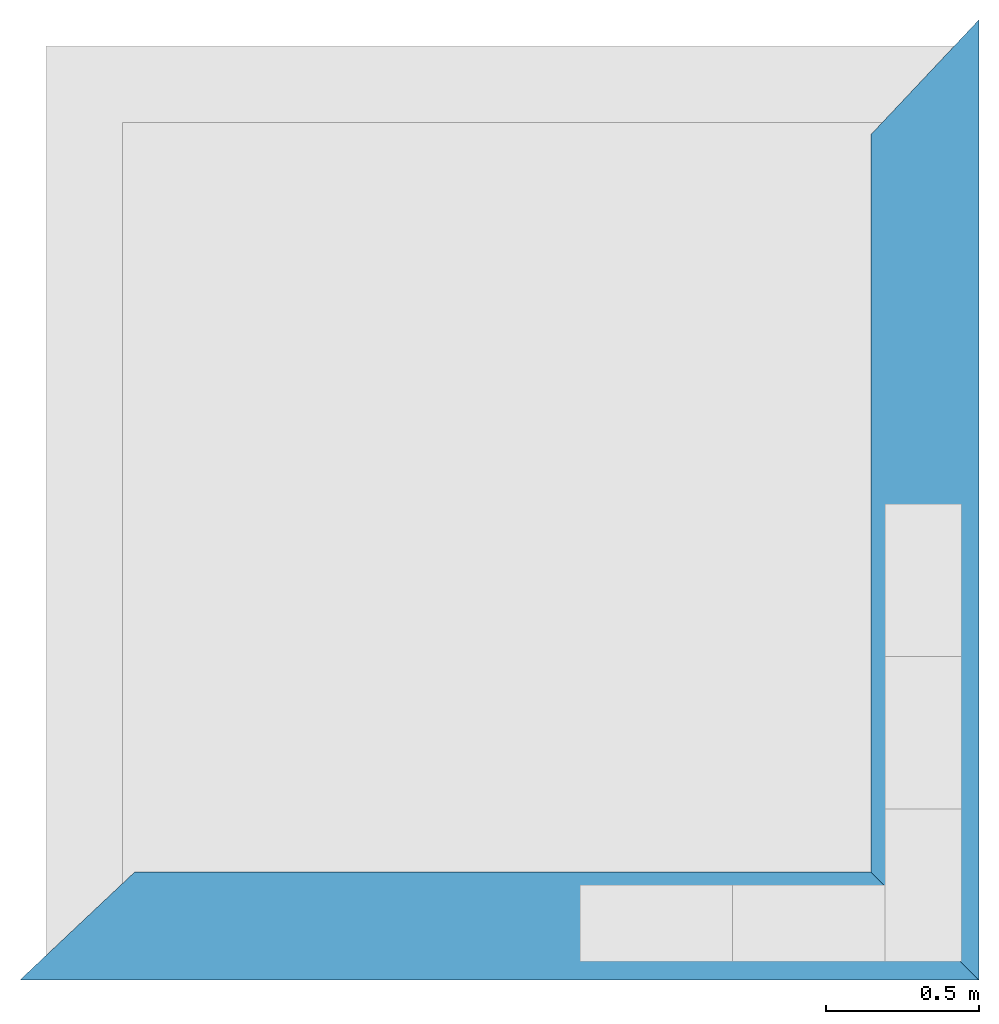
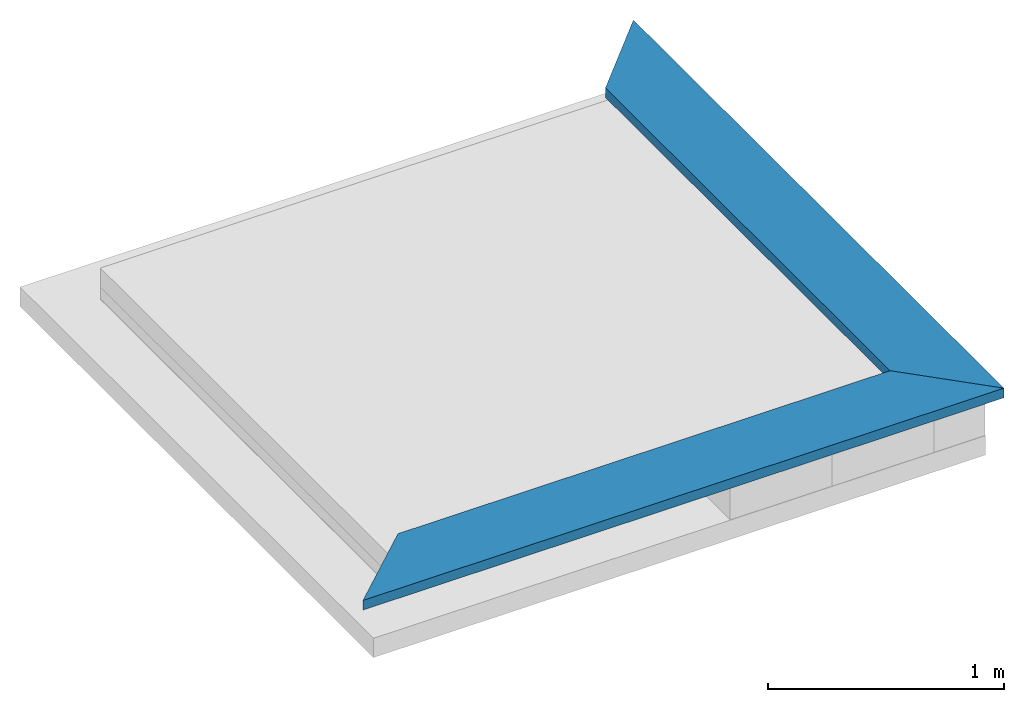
# One storey, part 3 of 3: 2 beams.
"""IFC4 building model written with IfcOpenShell, lengths in centimetres."""

import ifcopenshell
import ifcopenshell.guid

model = None  # the IFC model being written
_history = None  # IfcOwnerHistory: only IFC2X3 demands one
_inside = {}  # id of a spatial element -> (the spatial element, [elements in it])
_under = {}  # id of a project, library or spatial element -> (it, [spatial elements below it])
_declared = {}  # id of a project -> (the project, [libraries it declares])
_typed = {}  # id of a type object -> (the type object, [elements of that type])
_made_of = {}  # id of a material, layer set ... -> (it, [elements and type objects made of it])


def new_model(schema):
    """Start an empty IFC model of exactly this schema.

    Asked for "IFC4X3", IfcOpenShell would pick the latest addendum, in which some entities
    have other attributes; the version numbers below select the first issue.
    IFC2X3 requires an IfcOwnerHistory on every rooted entity: one is made here for all.
    """
    global model, _history
    if schema == "IFC4X3":
        model = ifcopenshell.file(schema_version=(4, 3, 0, 0))
    else:
        model = ifcopenshell.file(schema=schema)
    _inside.clear()
    _under.clear()
    _declared.clear()
    _typed.clear()
    _made_of.clear()
    _history = None
    if model.schema == "IFC2X3":
        org = make("IfcOrganization", Name="unknown")
        user = make(
            "IfcPersonAndOrganization",
            ThePerson=make("IfcPerson", FamilyName="unknown"),
            TheOrganization=org,
        )
        app = make(
            "IfcApplication",
            ApplicationDeveloper=org,
            Version="unknown",
            ApplicationFullName="unknown",
            ApplicationIdentifier="unknown",
        )
        _history = make(
            "IfcOwnerHistory",
            OwningUser=user,
            OwningApplication=app,
            ChangeAction="ADDED",
            CreationDate=0,
        )
    return model


def make(cls, **values):
    """One entity of the class cls with the attributes given. An attribute that is None is left unset."""
    return model.create_entity(
        cls, **{name: value for name, value in values.items() if value is not None}
    )


def entity(cls, *values):
    """Any entity or typed value of the class cls, its attributes in the order of the schema. None: left unset."""
    e = model.create_entity(cls)
    for i, value in enumerate(values):
        if value is not None:
            e[i] = value
    return e


def rooted(cls, **values):
    """An entity with a GlobalId (a new one), such as an element, a storey or a relation."""
    return make(cls, GlobalId=ifcopenshell.guid.new(), OwnerHistory=_history, **values)


def si_unit(unit_type, name, prefix=None):
    """IfcSIUnit, for example si_unit("LENGTHUNIT", "METRE", prefix="MILLI")."""
    return make("IfcSIUnit", UnitType=unit_type, Prefix=prefix, Name=name)


def converted_unit(unit_type, name, factor, base, dimensions=None, offset=None):
    """IfcConversionBasedUnit, such as the inch: factor (a typed value) times the base unit."""
    return make(
        "IfcConversionBasedUnit"
        if offset is None
        else "IfcConversionBasedUnitWithOffset",
        ConversionOffset=offset,
        Dimensions=None
        if dimensions is None
        else entity("IfcDimensionalExponents", *dimensions),
        UnitType=unit_type,
        Name=name,
        ConversionFactor=make(
            "IfcMeasureWithUnit", ValueComponent=factor, UnitComponent=base
        ),
    )


def assignment(units):
    """IfcUnitAssignment: the units of a project."""
    return None if units is None else make("IfcUnitAssignment", Units=units)


def point(xyz):
    """IfcCartesianPoint."""
    return None if xyz is None else make("IfcCartesianPoint", Coordinates=xyz)


def direction(xyz):
    """IfcDirection."""
    return None if xyz is None else make("IfcDirection", DirectionRatios=xyz)


def frame(location, z_axis=None, x_axis=None):
    """IfcAxis2Placement3D, a coordinate frame: its origin and axes. An axis left out is left unset."""
    return make(
        "IfcAxis2Placement3D",
        Location=point(location),
        Axis=direction(z_axis),
        RefDirection=direction(x_axis),
    )


def origin():
    """The frame at (0, 0, 0) with its axes left unset."""
    return frame((0.0, 0.0, 0.0))


def place(relative_to, where):
    """IfcLocalPlacement: puts the frame where relative to a parent placement (None: the world)."""
    return make(
        "IfcLocalPlacement", PlacementRelTo=relative_to, RelativePlacement=where
    )


def context(
    kind, dimensions, precision=None, world=None, true_north=None, identifier=None
):
    """IfcGeometricRepresentationContext, for example the 3D "Model" context."""
    return make(
        "IfcGeometricRepresentationContext",
        ContextIdentifier=identifier,
        ContextType=kind,
        CoordinateSpaceDimension=dimensions,
        Precision=precision,
        WorldCoordinateSystem=world,
        TrueNorth=true_north,
    )


def subcontext(parent, identifier, kind, view, scale=None):
    """IfcGeometricRepresentationSubContext, for example "Body" below "Model"."""
    return make(
        "IfcGeometricRepresentationSubContext",
        ContextIdentifier=identifier,
        ContextType=kind,
        ParentContext=parent,
        TargetScale=scale,
        TargetView=view,
    )


def project(units=None, contexts=None):
    """IfcProject with its units and contexts."""
    return rooted(
        "IfcProject",
        Name="project",
        RepresentationContexts=contexts,
        UnitsInContext=assignment(units),
    )


def spatial(cls, under=None, at=None, **own):
    """A site, building, storey or space (cls), placed at a placement, below another one or the project."""
    s = rooted(cls, ObjectPlacement=at, **own)
    if under is not None:
        _under.setdefault(under.id(), (under, []))[1].append(s)
    return s


def point_list(points):
    """IfcCartesianPointList2D or 3D."""
    cls = (
        "IfcCartesianPointList2D" if len(points[0]) == 2 else "IfcCartesianPointList3D"
    )
    return make(cls, CoordList=points)


def polygons(points, faces, closed=None, point_numbers=None):
    """IfcPolygonalFaceSet: a face is its outer loop, then its inner loops; points numbered from 1."""
    made = []
    for loops in faces:
        if len(loops) == 1:
            made.append(make("IfcIndexedPolygonalFace", CoordIndex=loops[0]))
        else:
            made.append(
                make(
                    "IfcIndexedPolygonalFaceWithVoids",
                    CoordIndex=loops[0],
                    InnerCoordIndices=loops[1:],
                )
            )
    return make(
        "IfcPolygonalFaceSet",
        Coordinates=point_list(points),
        Closed=closed,
        Faces=made,
        PnIndex=point_numbers,
    )


def shape(context_of_items, identifier, shape_type, items):
    """IfcShapeRepresentation: the items that make up one representation, for example the "Body"."""
    return make(
        "IfcShapeRepresentation",
        ContextOfItems=context_of_items,
        RepresentationIdentifier=identifier,
        RepresentationType=shape_type,
        Items=items,
    )


def source(mapping_origin, context_of_items, identifier, shape_type, items):
    """IfcRepresentationMap: a shape defined once, which mapped items show again and again."""
    return make(
        "IfcRepresentationMap",
        MappingOrigin=mapping_origin,
        MappedRepresentation=shape(context_of_items, identifier, shape_type, items),
    )


def transform(
    local_origin,
    x_axis=None,
    y_axis=None,
    z_axis=None,
    scale=None,
    scale2=None,
    scale3=None,
    uniform=True,
):
    """IfcCartesianTransformationOperator3D, or its non-uniform kind. x_axis, y_axis, z_axis: its Axis1, 2, 3."""
    if uniform:
        return make(
            "IfcCartesianTransformationOperator3D",
            Axis1=direction(x_axis),
            Axis2=direction(y_axis),
            LocalOrigin=point(local_origin),
            Scale=scale,
            Axis3=direction(z_axis),
        )
    return make(
        "IfcCartesianTransformationOperator3DnonUniform",
        Axis1=direction(x_axis),
        Axis2=direction(y_axis),
        LocalOrigin=point(local_origin),
        Scale=scale,
        Axis3=direction(z_axis),
        Scale2=scale2,
        Scale3=scale3,
    )


def mapped(mapping_source, mapping_target):
    """IfcMappedItem: shows the shape of a source again, moved by a transform."""
    return make(
        "IfcMappedItem", MappingSource=mapping_source, MappingTarget=mapping_target
    )


def material(Name=None, Category=None):
    """IfcMaterial."""
    return make("IfcMaterial", Name=Name, Category=Category)


def made_of(thing, what):
    """Note that an element or type object is made of a material, layer set ...; save() writes the relation."""
    if what is not None:
        _made_of.setdefault(what.id(), (what, []))[1].append(thing)
    return thing


def type_object(cls, material=None, **own):
    """A type object (cls), such as IfcWallType, which elements share."""
    return made_of(rooted(cls, **own), material)


def type_shapes(of_type, sources):
    """Give a type object the sources (RepresentationMaps) that its elements show as mapped items."""
    of_type.RepresentationMaps = sources


def element(
    cls,
    number,
    at=None,
    inside=None,
    cuts=None,
    type_object=None,
    material=None,
    context=None,
    identifier="Body",
    shape_type=None,
    held_by="IfcProductDefinitionShape",
    body=None,
    shapes=None,
    **own,
):
    """One element of the class cls, such as IfcWall. Its Tag is "e" and its number.

    at: its placement. inside: the storey or other place that contains it. cuts: it is an
    opening in that element (IfcRelVoidsElement). A single representation is given by context,
    identifier, shape_type and body (its items); several are given by shapes. held_by: the class
    of the entity that holds the representations. save() writes the other relations.
    """
    e = rooted(cls, Tag="e%d" % number, ObjectPlacement=at, **own)
    if body is not None:
        shapes = [shape(context, identifier, shape_type, body)]
    if shapes is not None:
        e.Representation = make(held_by, Representations=shapes)
    if inside is not None:
        _inside.setdefault(inside.id(), (inside, []))[1].append(e)
    if cuts is not None:
        rooted(
            "IfcRelVoidsElement", RelatingBuildingElement=cuts, RelatedOpeningElement=e
        )
    if type_object is not None:
        _typed.setdefault(type_object.id(), (type_object, []))[1].append(e)
    return made_of(e, material)


def aggregate(whole, parts):
    """IfcRelAggregates: a whole, such as a stair, and the parts it consists of."""
    return rooted("IfcRelAggregates", RelatingObject=whole, RelatedObjects=parts)


def save(model, path):
    """Write the relations noted so far, then the file.

    IfcRelAggregates (storeys below a building ...), IfcRelContainedInSpatialStructure (elements
    in a storey), IfcRelDefinesByType, IfcRelAssociatesMaterial and IfcRelDeclares: one each for
    every whole, place, type object, material and project.
    """
    for whole, parts in _under.values():
        aggregate(whole, parts)
    for where, things in _inside.values():
        rooted(
            "IfcRelContainedInSpatialStructure",
            RelatedElements=things,
            RelatingStructure=where,
        )
    for kind, things in _typed.values():
        rooted("IfcRelDefinesByType", RelatedObjects=things, RelatingType=kind)
    for what, things in _made_of.values():
        rooted("IfcRelAssociatesMaterial", RelatedObjects=things, RelatingMaterial=what)
    for by, libraries in _declared.values():
        rooted("IfcRelDeclares", RelatingContext=by, RelatedDefinitions=libraries)
    model.write(path)


model = new_model("IFC4")

# Units and contexts
model_context = context("Model", 3, precision=0.001, world=origin(), true_north=direction((0.0, 1.0)))
body_context = subcontext(model_context, "Body", "Model", "MODEL_VIEW")
ifc_project = project(units=[si_unit("LENGTHUNIT", "METRE", prefix="CENTI"), si_unit("AREAUNIT", "SQUARE_METRE"), si_unit("VOLUMEUNIT", "CUBIC_METRE"), converted_unit("PLANEANGLEUNIT", "DEGREE", entity("IfcPlaneAngleMeasure", 0.017453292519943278), si_unit("PLANEANGLEUNIT", "RADIAN"), dimensions=[0, 0, 0, 0, 0, 0, 0])], contexts=[model_context])

# Site, building, storey
site_placement = place(None, origin())
site = spatial("IfcSite", under=ifc_project, at=site_placement, Name="Default", CompositionType="ELEMENT")
building_placement = place(site_placement, origin())
building = spatial("IfcBuilding", under=site, at=building_placement, CompositionType="ELEMENT")
storey_placement = place(building_placement, frame((0.0, 0.0, 256.0)))
storey = spatial("IfcBuildingStorey", under=building, at=storey_placement, Name="L01__ABOVE Slab", CompositionType="ELEMENT", Elevation=255.9999999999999)

# Beams
ifc_material = material(Name="_SILL__Sill__Metal", Category="Miscellaneous")
beam_type_1 = type_object("IfcBeamType", Name="Structural Framing : wll__PARAPET CAP__Metal__sf : Wall Coping w/ H 50mm Nose, Stamped AL Profile", PredefinedType="BEAM", material=ifc_material)
shared_shape_1 = source(origin(), body_context, "Body", "Tessellation", [
    polygons([(3152.7289147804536, 2157.2200309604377, 277.3999999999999), (3152.7289147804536, 2157.2200309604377, 278.39999999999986), (3152.7289147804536, 2400.1573190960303, 278.39999999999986), (3152.7289147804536, 2400.1573190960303, 277.3999999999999), (3152.328914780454, 2157.6200309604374, 277.3999999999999), (3152.328914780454, 2399.7324603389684, 277.3999999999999), (3152.328914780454, 2157.6200309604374, 281.9999999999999), (3152.328914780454, 2399.7324603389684, 281.9999999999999), (3187.3289147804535, 2122.620030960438, 281.9999999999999), (3187.328914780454, 2436.9076015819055, 281.9999999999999), (3187.3289147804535, 2122.620030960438, 277.3999999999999), (3187.328914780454, 2436.9076015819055, 277.3999999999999), (3186.928914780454, 2123.0200309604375, 277.3999999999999), (3186.9289147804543, 2436.4827428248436, 277.3999999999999), (3186.928914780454, 2123.0200309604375, 278.39999999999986), (3186.9289147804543, 2436.4827428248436, 278.39999999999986), (3186.7289147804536, 2123.2200309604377, 278.39999999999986), (3186.728914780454, 2436.2703134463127, 278.39999999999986), (3186.7289147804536, 2123.2200309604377, 277.1999999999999), (3186.728914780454, 2436.2703134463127, 277.1999999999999), (3187.5289147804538, 2122.420030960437, 277.1999999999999), (3187.528914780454, 2437.1200309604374, 277.1999999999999), (3187.5289147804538, 2122.420030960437, 282.1999999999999), (3187.528914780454, 2437.1200309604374, 282.1999999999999), (3152.1289147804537, 2157.8200309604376, 282.1999999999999), (3152.1289147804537, 2399.520030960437, 282.1999999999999), (3152.1289147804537, 2157.8200309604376, 277.1999999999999), (3152.1289147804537, 2399.520030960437, 277.1999999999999), (3152.9289147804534, 2157.0200309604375, 277.1999999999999), (3152.9289147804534, 2400.369748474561, 277.1999999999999), (3152.9289147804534, 2157.0200309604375, 278.39999999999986), (3152.9289147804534, 2400.369748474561, 278.39999999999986)], [[[1, 2, 3, 4]], [[5, 1, 4, 6]], [[7, 5, 6, 8]], [[9, 7, 8, 10]], [[11, 9, 10, 12]], [[13, 11, 12, 14]], [[15, 13, 14, 16]], [[17, 15, 16, 18]], [[19, 17, 18, 20]], [[21, 19, 20, 22]], [[23, 21, 22, 24]], [[25, 23, 24, 26]], [[27, 25, 26, 28]], [[29, 27, 28, 30]], [[31, 29, 30, 32]], [[2, 31, 32, 3]], [[3, 32, 30, 28, 26, 24, 22, 20, 18, 16, 14, 12, 10, 8, 6, 4]], [[2, 1, 5, 7, 9, 11, 13, 15, 17, 19, 21, 23, 25, 27, 29, 31]]], closed=True),
])
type_shapes(beam_type_1, [shared_shape_1])
beam_1_placement = place(storey_placement, frame((0.0, 0.0, -256.0)))
element("IfcBeam", 1, at=beam_1_placement, inside=storey, type_object=beam_type_1, material=ifc_material, Name="Structural Framing : wll__PARAPET CAP__Metal__sf : Wall Coping w/ H 50mm Nose, Stamped AL Profile", PredefinedType="BEAM", context=body_context, shape_type="MappedRepresentation", body=[
    mapped(shared_shape_1, transform((0.0, 0.0, 0.0), scale=1.0)),
])
beam_type_2 = type_object("IfcBeamType", Name="Structural Framing : wll__PARAPET CAP__Metal__sf : Wall Coping w/ H 50mm Nose, Stamped AL Profile", PredefinedType="BEAM", material=ifc_material)
shared_shape_2 = source(origin(), body_context, "Body", "Tessellation", [
    polygons([(2910.191626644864, 2157.2200309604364, 277.3999999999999), (2910.191626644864, 2157.2200309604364, 278.39999999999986), (3152.7289147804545, 2157.220030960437, 278.39999999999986), (3152.7289147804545, 2157.220030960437, 277.3999999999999), (2910.6164854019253, 2157.620030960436, 277.3999999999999), (3152.328914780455, 2157.6200309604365, 277.3999999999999), (2910.6164854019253, 2157.620030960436, 281.9999999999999), (3152.328914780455, 2157.6200309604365, 281.9999999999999), (2873.441344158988, 2122.6200309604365, 281.9999999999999), (3187.3289147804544, 2122.620030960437, 281.9999999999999), (2873.441344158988, 2122.6200309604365, 277.3999999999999), (3187.3289147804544, 2122.620030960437, 277.3999999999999), (2873.8662029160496, 2123.020030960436, 277.3999999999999), (3186.9289147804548, 2123.0200309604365, 277.3999999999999), (2873.8662029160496, 2123.020030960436, 278.39999999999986), (3186.9289147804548, 2123.0200309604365, 278.39999999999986), (2874.078632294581, 2123.2200309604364, 278.39999999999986), (3186.7289147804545, 2123.220030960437, 278.39999999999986), (2874.078632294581, 2123.2200309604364, 277.1999999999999), (3186.7289147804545, 2123.220030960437, 277.1999999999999), (2873.2289147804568, 2122.420030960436, 277.1999999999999), (3187.528914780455, 2122.4200309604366, 277.1999999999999), (2873.2289147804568, 2122.420030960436, 282.1999999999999), (3187.528914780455, 2122.4200309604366, 282.1999999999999), (2910.8289147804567, 2157.8200309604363, 282.1999999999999), (3152.1289147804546, 2157.8200309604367, 282.1999999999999), (2910.8289147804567, 2157.8200309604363, 277.1999999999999), (3152.1289147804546, 2157.8200309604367, 277.1999999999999), (2909.979197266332, 2157.0200309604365, 277.1999999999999), (3152.9289147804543, 2157.020030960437, 277.1999999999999), (2909.979197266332, 2157.0200309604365, 278.39999999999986), (3152.9289147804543, 2157.020030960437, 278.39999999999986)], [[[1, 2, 3, 4]], [[5, 1, 4, 6]], [[7, 5, 6, 8]], [[9, 7, 8, 10]], [[11, 9, 10, 12]], [[13, 11, 12, 14]], [[15, 13, 14, 16]], [[17, 15, 16, 18]], [[19, 17, 18, 20]], [[21, 19, 20, 22]], [[23, 21, 22, 24]], [[25, 23, 24, 26]], [[27, 25, 26, 28]], [[29, 27, 28, 30]], [[31, 29, 30, 32]], [[2, 31, 32, 3]], [[3, 32, 30, 28, 26, 24, 22, 20, 18, 16, 14, 12, 10, 8, 6, 4]], [[2, 1, 5, 7, 9, 11, 13, 15, 17, 19, 21, 23, 25, 27, 29, 31]]], closed=True),
])
type_shapes(beam_type_2, [shared_shape_2])
beam_2_placement = place(storey_placement, frame((0.0, 0.0, -256.0)))
element("IfcBeam", 2, at=beam_2_placement, inside=storey, type_object=beam_type_2, material=ifc_material, Name="Structural Framing : wll__PARAPET CAP__Metal__sf : Wall Coping w/ H 50mm Nose, Stamped AL Profile", PredefinedType="BEAM", context=body_context, shape_type="MappedRepresentation", body=[
    mapped(shared_shape_2, transform((0.0, 0.0, 0.0), scale=1.0)),
])

save(model, "model.ifc")
